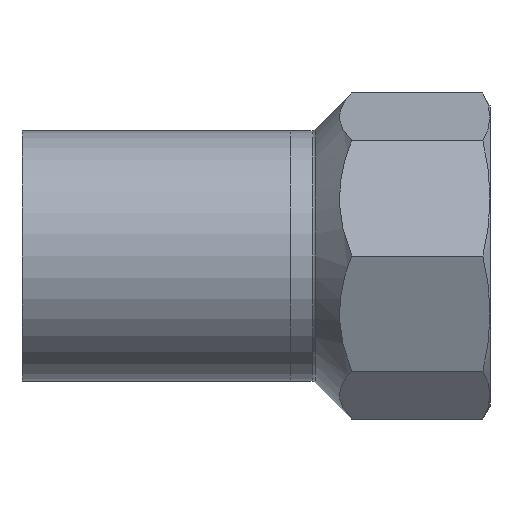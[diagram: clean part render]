
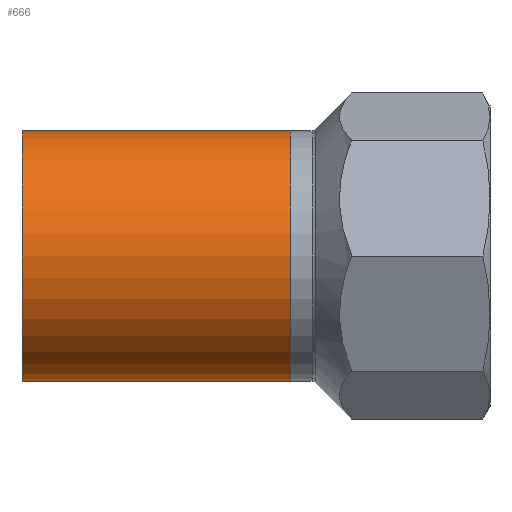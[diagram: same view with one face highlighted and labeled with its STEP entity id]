
A CAD part, front view. The second image highlights one B-rep face of the part: STEP entity #666.
In plain terms, the highlighted cylindrical face has radius 27 mm (diameter 54 mm), a partial arc.
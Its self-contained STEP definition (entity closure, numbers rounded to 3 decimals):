
#40 = AXIS2_PLACEMENT_3D ( 'NONE', #907, #1245, #1231 ) ;
#137 = VERTEX_POINT ( 'NONE', #650 ) ;
#230 = EDGE_CURVE ( 'NONE', #435, #137, #1266, .T. ) ;
#236 = ORIENTED_EDGE ( 'NONE', *, *, #1294, .T. ) ;
#239 = VERTEX_POINT ( 'NONE', #1417 ) ;
#253 = LINE ( 'NONE', #268, #693 ) ;
#268 = CARTESIAN_POINT ( 'NONE',  ( 27., 0., 58. ) ) ;
#338 = CARTESIAN_POINT ( 'NONE',  ( -27., 0., 58. ) ) ;
#380 = DIRECTION ( 'NONE',  ( -1., 0., 0. ) ) ;
#382 = ORIENTED_EDGE ( 'NONE', *, *, #230, .T. ) ;
#416 = FACE_OUTER_BOUND ( 'NONE', #1220, .T. ) ;
#426 = CARTESIAN_POINT ( 'NONE',  ( 27., 0., 0. ) ) ;
#435 = VERTEX_POINT ( 'NONE', #1427 ) ;
#492 = DIRECTION ( 'NONE',  ( 0., 0., -1. ) ) ;
#497 = CIRCLE ( 'NONE', #40, 27. ) ;
#527 = CYLINDRICAL_SURFACE ( 'NONE', #1049, 27. ) ;
#630 = ORIENTED_EDGE ( 'NONE', *, *, #1277, .F. ) ;
#650 = CARTESIAN_POINT ( 'NONE',  ( -27., 0., 0. ) ) ;
#666 = ADVANCED_FACE ( 'NONE', ( #416 ), #527, .T. ) ;
#693 = VECTOR ( 'NONE', #862, 1000. ) ;
#696 = ORIENTED_EDGE ( 'NONE', *, *, #1150, .F. ) ;
#740 = CARTESIAN_POINT ( 'NONE',  ( 0., 0., 58. ) ) ;
#787 = DIRECTION ( 'NONE',  ( 1., 0., 0. ) ) ;
#862 = DIRECTION ( 'NONE',  ( 0., 0., -1. ) ) ;
#907 = CARTESIAN_POINT ( 'NONE',  ( 0., 0., 0. ) ) ;
#936 = DIRECTION ( 'NONE',  ( 0., 0., -1. ) ) ;
#1049 = AXIS2_PLACEMENT_3D ( 'NONE', #740, #492, #380 ) ;
#1100 = CIRCLE ( 'NONE', #1331, 27. ) ;
#1150 = EDGE_CURVE ( 'NONE', #239, #1292, #253, .T. ) ;
#1220 = EDGE_LOOP ( 'NONE', ( #696, #630, #382, #236 ) ) ;
#1231 = DIRECTION ( 'NONE',  ( 1., 0., 0. ) ) ;
#1245 = DIRECTION ( 'NONE',  ( 0., 0., 1. ) ) ;
#1266 = LINE ( 'NONE', #338, #1502 ) ;
#1277 = EDGE_CURVE ( 'NONE', #435, #239, #1100, .T. ) ;
#1292 = VERTEX_POINT ( 'NONE', #426 ) ;
#1294 = EDGE_CURVE ( 'NONE', #137, #1292, #497, .T. ) ;
#1331 = AXIS2_PLACEMENT_3D ( 'NONE', #1368, #1465, #787 ) ;
#1368 = CARTESIAN_POINT ( 'NONE',  ( 0., 0., 58. ) ) ;
#1417 = CARTESIAN_POINT ( 'NONE',  ( 27., 0., 58. ) ) ;
#1427 = CARTESIAN_POINT ( 'NONE',  ( -27., 0., 58. ) ) ;
#1465 = DIRECTION ( 'NONE',  ( 0., 0., 1. ) ) ;
#1502 = VECTOR ( 'NONE', #936, 1000. ) ;
